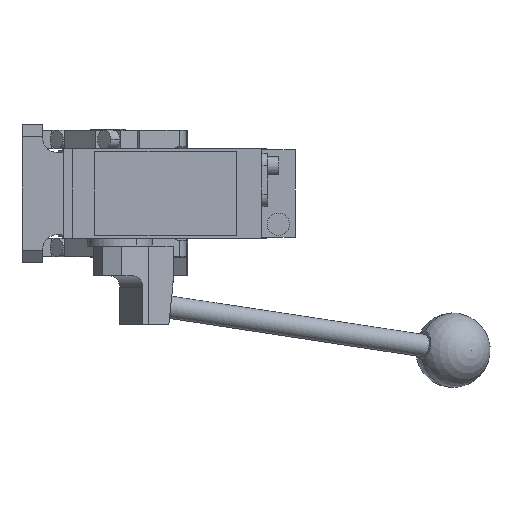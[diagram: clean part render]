
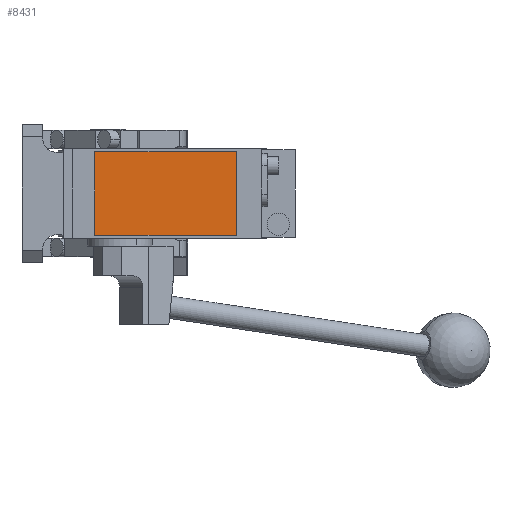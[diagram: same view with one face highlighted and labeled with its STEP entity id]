
A CAD part, front view. The second image highlights one B-rep face of the part: STEP entity #8431.
In plain terms, the highlighted planar face has unit normal (0, -1, 0).
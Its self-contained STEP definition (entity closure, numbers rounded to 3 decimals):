
#108 = DIRECTION ( 'NONE',  ( 1., 0., 0. ) ) ;
#626 = VERTEX_POINT ( 'NONE', #15671 ) ;
#1322 = CARTESIAN_POINT ( 'NONE',  ( -7., -280.5, -22.5 ) ) ;
#1563 = LINE ( 'NONE', #1322, #3739 ) ;
#2115 = CARTESIAN_POINT ( 'NONE',  ( -7., -280.5, 22.5 ) ) ;
#2172 = EDGE_CURVE ( 'NONE', #9408, #15230, #4214, .T. ) ;
#3467 = CARTESIAN_POINT ( 'NONE',  ( 0., -280.5, 0. ) ) ;
#3739 = VECTOR ( 'NONE', #108, 1000. ) ;
#3998 = VECTOR ( 'NONE', #5945, 1000. ) ;
#4214 = LINE ( 'NONE', #5349, #9669 ) ;
#4476 = DIRECTION ( 'NONE',  ( 0., 0., 1. ) ) ;
#4514 = EDGE_CURVE ( 'NONE', #15230, #8864, #1563, .T. ) ;
#4763 = EDGE_CURVE ( 'NONE', #626, #9408, #9713, .T. ) ;
#4794 = VECTOR ( 'NONE', #4476, 1000. ) ;
#5349 = CARTESIAN_POINT ( 'NONE',  ( -7., -280.5, 22.5 ) ) ;
#5368 = CARTESIAN_POINT ( 'NONE',  ( -7., -280.5, -22.5 ) ) ;
#5418 = CARTESIAN_POINT ( 'NONE',  ( -7., -280.5, 22.5 ) ) ;
#5729 = ORIENTED_EDGE ( 'NONE', *, *, #5886, .T. ) ;
#5886 = EDGE_CURVE ( 'NONE', #8864, #626, #9380, .T. ) ;
#5945 = DIRECTION ( 'NONE',  ( -1., 0., 0. ) ) ;
#6880 = ORIENTED_EDGE ( 'NONE', *, *, #2172, .T. ) ;
#7744 = AXIS2_PLACEMENT_3D ( 'NONE', #3467, #10785, #15908 ) ;
#8431 = ADVANCED_FACE ( 'NONE', ( #15822 ), #9508, .T. ) ;
#8864 = VERTEX_POINT ( 'NONE', #11386 ) ;
#9242 = ORIENTED_EDGE ( 'NONE', *, *, #4763, .T. ) ;
#9380 = LINE ( 'NONE', #15614, #4794 ) ;
#9408 = VERTEX_POINT ( 'NONE', #5418 ) ;
#9508 = PLANE ( 'NONE',  #7744 ) ;
#9669 = VECTOR ( 'NONE', #12808, 1000. ) ;
#9713 = LINE ( 'NONE', #2115, #3998 ) ;
#10320 = EDGE_LOOP ( 'NONE', ( #6880, #12721, #5729, #9242 ) ) ;
#10785 = DIRECTION ( 'NONE',  ( 0., -1., 0. ) ) ;
#11386 = CARTESIAN_POINT ( 'NONE',  ( 69., -280.5, -22.5 ) ) ;
#12721 = ORIENTED_EDGE ( 'NONE', *, *, #4514, .T. ) ;
#12808 = DIRECTION ( 'NONE',  ( 0., 0., -1. ) ) ;
#15230 = VERTEX_POINT ( 'NONE', #5368 ) ;
#15614 = CARTESIAN_POINT ( 'NONE',  ( 69., -280.5, 22.5 ) ) ;
#15671 = CARTESIAN_POINT ( 'NONE',  ( 69., -280.5, 22.5 ) ) ;
#15822 = FACE_OUTER_BOUND ( 'NONE', #10320, .T. ) ;
#15908 = DIRECTION ( 'NONE',  ( 0., 0., -1. ) ) ;
